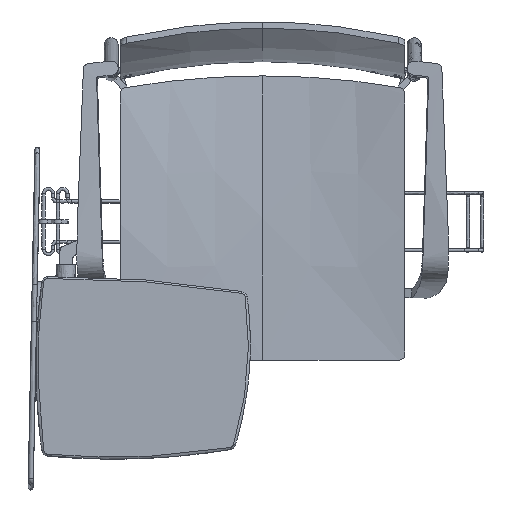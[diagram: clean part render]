
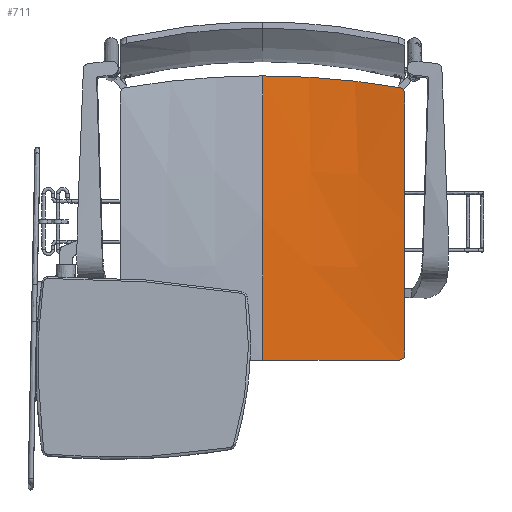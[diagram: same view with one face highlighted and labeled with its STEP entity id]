
A CAD part, top view. The second image highlights one B-rep face of the part: STEP entity #711.
In plain terms, the highlighted free-form (B-spline) face has degree [3, 3] with [6, 6] control points.
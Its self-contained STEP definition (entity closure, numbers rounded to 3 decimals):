
#21=B_SPLINE_SURFACE_WITH_KNOTS('',3,3,((#14225,#14226,#14227,#14228,#14229,
#14230),(#14231,#14232,#14233,#14234,#14235,#14236),(#14237,#14238,#14239,
#14240,#14241,#14242),(#14243,#14244,#14245,#14246,#14247,#14248),(#14249,
#14250,#14251,#14252,#14253,#14254),(#14255,#14256,#14257,#14258,#14259,
#14260)),.UNSPECIFIED.,.F.,.F.,.F.,(4,1,1,4),(4,1,1,4),(224.697,
299.522,374.346,449.395),(0.,145.508,
291.016,436.96),.UNSPECIFIED.);
#711=ADVANCED_FACE('',(#1101),#21,.T.);
#1101=FACE_OUTER_BOUND('',#1499,.T.);
#1499=EDGE_LOOP('',(#2699,#2700,#2701,#2702,#2703,#2704));
#2699=ORIENTED_EDGE('',*,*,#3790,.F.);
#2700=ORIENTED_EDGE('',*,*,#3780,.F.);
#2701=ORIENTED_EDGE('',*,*,#3788,.F.);
#2702=ORIENTED_EDGE('',*,*,#3778,.F.);
#2703=ORIENTED_EDGE('',*,*,#3760,.T.);
#2704=ORIENTED_EDGE('',*,*,#3781,.F.);
#3760=EDGE_CURVE('',#5214,#5215,#4671,.T.);
#3778=EDGE_CURVE('',#5214,#5229,#4404,.T.);
#3780=EDGE_CURVE('',#5227,#5226,#4406,.T.);
#3781=EDGE_CURVE('',#5230,#5215,#4684,.T.);
#3788=EDGE_CURVE('',#5229,#5227,#4691,.T.);
#3790=EDGE_CURVE('',#5226,#5230,#4693,.T.);
#4404=(
BOUNDED_CURVE()
B_SPLINE_CURVE(2,(#14429,#14430,#14431),.UNSPECIFIED.,.F.,.F.)
B_SPLINE_CURVE_WITH_KNOTS((3,3),(-226.906,-8.747),
 .UNSPECIFIED.)
CURVE()
GEOMETRIC_REPRESENTATION_ITEM()
RATIONAL_B_SPLINE_CURVE((1.,0.986,1.))
REPRESENTATION_ITEM('')
);
#4406=(
BOUNDED_CURVE()
B_SPLINE_CURVE(2,(#14435,#14436,#14437),.UNSPECIFIED.,.F.,.F.)
B_SPLINE_CURVE_WITH_KNOTS((3,3),(-417.08,-10.001),
 .UNSPECIFIED.)
CURVE()
GEOMETRIC_REPRESENTATION_ITEM()
RATIONAL_B_SPLINE_CURVE((1.,0.999,1.))
REPRESENTATION_ITEM('')
);
#4671=B_SPLINE_CURVE_WITH_KNOTS('',3,(#14312,#14313,#14314,#14315,#14316,
#14317),.UNSPECIFIED.,.F.,.F.,(4,1,1,4),(-436.523,-291.016,
-145.508,0.),.UNSPECIFIED.);
#4684=B_SPLINE_CURVE_WITH_KNOTS('',1,(#14438,#14439),.UNSPECIFIED.,.F.,
 .F.,(2,2),(-435.,-222.5),.UNSPECIFIED.);
#4691=B_SPLINE_CURVE_WITH_KNOTS('',3,(#14470,#14471,#14472,#14473,#14474,
#14475,#14476,#14477,#14478,#14479,#14480,#14481,#14482,#14483,#14484,#14485,
#14486,#14487,#14488,#14489),.UNSPECIFIED.,.F.,.F.,(4,1,1,1,1,1,1,1,1,1,
1,1,1,1,1,1,1,4),(-14.341,-13.544,-12.725,
-11.889,-11.037,-10.171,-9.297,-8.416,
-7.533,-6.651,-5.773,-4.903,
-4.045,-3.2,-2.371,-1.56,
-0.77,0.),.UNSPECIFIED.);
#4693=B_SPLINE_CURVE_WITH_KNOTS('',3,(#14510,#14511,#14512,#14513,#14514,
#14515,#14516,#14517,#14518,#14519,#14520,#14521,#14522,#14523,#14524,#14525,
#14526,#14527,#14528,#14529),.UNSPECIFIED.,.F.,.F.,(4,1,1,1,1,1,1,1,1,1,
1,1,1,1,1,1,1,4),(0.,0.846,1.719,2.616,
3.536,4.474,5.428,6.393,7.365,
8.339,9.311,10.276,11.229,12.168,
13.087,13.985,14.857,15.703),
 .UNSPECIFIED.);
#5214=VERTEX_POINT('',#14288);
#5215=VERTEX_POINT('',#14289);
#5226=VERTEX_POINT('',#14300);
#5227=VERTEX_POINT('',#14301);
#5229=VERTEX_POINT('',#14303);
#5230=VERTEX_POINT('',#14304);
#14225=CARTESIAN_POINT('',(0.,-257.5,438.92));
#14226=CARTESIAN_POINT('',(0.,-207.832,436.162));
#14227=CARTESIAN_POINT('',(0.,-108.594,428.907));
#14228=CARTESIAN_POINT('',(0.,39.995,412.796));
#14229=CARTESIAN_POINT('',(0.,138.607,398.59));
#14230=CARTESIAN_POINT('',(0.,187.851,390.612));
#14231=CARTESIAN_POINT('',(24.722,-257.5,438.92));
#14232=CARTESIAN_POINT('',(24.777,-207.832,436.162));
#14233=CARTESIAN_POINT('',(24.886,-108.594,428.907));
#14234=CARTESIAN_POINT('',(25.049,39.995,412.796));
#14235=CARTESIAN_POINT('',(25.158,138.607,398.59));
#14236=CARTESIAN_POINT('',(25.213,187.851,390.612));
#14237=CARTESIAN_POINT('',(74.167,-257.5,438.92));
#14238=CARTESIAN_POINT('',(74.33,-208.011,436.425));
#14239=CARTESIAN_POINT('',(74.656,-109.124,429.702));
#14240=CARTESIAN_POINT('',(75.146,38.966,414.415));
#14241=CARTESIAN_POINT('',(75.473,137.266,400.772));
#14242=CARTESIAN_POINT('',(75.637,186.359,393.079));
#14243=CARTESIAN_POINT('',(148.408,-257.5,438.92));
#14244=CARTESIAN_POINT('',(148.624,-208.818,437.601));
#14245=CARTESIAN_POINT('',(149.058,-111.501,433.268));
#14246=CARTESIAN_POINT('',(149.709,34.355,421.67));
#14247=CARTESIAN_POINT('',(150.143,131.254,410.553));
#14248=CARTESIAN_POINT('',(150.361,179.667,404.14));
#14249=CARTESIAN_POINT('',(197.926,-257.5,438.92));
#14250=CARTESIAN_POINT('',(198.035,-209.708,438.899));
#14251=CARTESIAN_POINT('',(198.254,-114.126,437.2));
#14252=CARTESIAN_POINT('',(198.582,29.265,429.675));
#14253=CARTESIAN_POINT('',(198.801,124.619,421.343));
#14254=CARTESIAN_POINT('',(198.911,172.284,416.343));
#14255=CARTESIAN_POINT('',(222.723,-257.5,438.92));
#14256=CARTESIAN_POINT('',(222.722,-210.238,439.672));
#14257=CARTESIAN_POINT('',(222.72,-115.691,439.543));
#14258=CARTESIAN_POINT('',(222.717,26.231,434.444));
#14259=CARTESIAN_POINT('',(222.715,120.665,427.774));
#14260=CARTESIAN_POINT('',(222.714,167.884,423.616));
#14288=CARTESIAN_POINT('',(0.,187.409,390.683));
#14289=CARTESIAN_POINT('',(0.,-257.5,438.92));
#14300=CARTESIAN_POINT('',(222.5,-247.5,439.066));
#14301=CARTESIAN_POINT('',(222.5,159.145,424.316));
#14303=CARTESIAN_POINT('',(214.241,168.992,421.123));
#14304=CARTESIAN_POINT('',(212.5,-257.5,438.92));
#14312=CARTESIAN_POINT('',(0.,187.409,390.683));
#14313=CARTESIAN_POINT('',(0.,138.312,398.633));
#14314=CARTESIAN_POINT('',(0.,39.846,412.812));
#14315=CARTESIAN_POINT('',(0.,-108.594,428.907));
#14316=CARTESIAN_POINT('',(0.,-207.832,436.162));
#14317=CARTESIAN_POINT('',(0.,-257.5,438.92));
#14429=CARTESIAN_POINT('',(0.,187.409,390.683));
#14430=CARTESIAN_POINT('',(110.075,187.409,390.683));
#14431=CARTESIAN_POINT('',(214.241,168.992,421.123));
#14435=CARTESIAN_POINT('',(222.5,159.145,424.316));
#14436=CARTESIAN_POINT('',(222.5,-43.812,441.779));
#14437=CARTESIAN_POINT('',(222.5,-247.5,439.066));
#14438=CARTESIAN_POINT('',(212.5,-257.5,438.92));
#14439=CARTESIAN_POINT('',(0.,-257.5,438.92));
#14470=CARTESIAN_POINT('',(214.241,168.992,421.123));
#14471=CARTESIAN_POINT('',(214.493,168.947,421.196));
#14472=CARTESIAN_POINT('',(214.999,168.838,421.346));
#14473=CARTESIAN_POINT('',(215.751,168.612,421.576));
#14474=CARTESIAN_POINT('',(216.499,168.322,421.811));
#14475=CARTESIAN_POINT('',(217.236,167.965,422.05));
#14476=CARTESIAN_POINT('',(217.951,167.542,422.289));
#14477=CARTESIAN_POINT('',(218.637,167.055,422.526));
#14478=CARTESIAN_POINT('',(219.286,166.506,422.759));
#14479=CARTESIAN_POINT('',(219.888,165.901,422.984));
#14480=CARTESIAN_POINT('',(220.438,165.246,423.198));
#14481=CARTESIAN_POINT('',(220.929,164.547,423.399));
#14482=CARTESIAN_POINT('',(221.357,163.813,423.585));
#14483=CARTESIAN_POINT('',(221.718,163.052,423.755));
#14484=CARTESIAN_POINT('',(222.01,162.274,423.906));
#14485=CARTESIAN_POINT('',(222.233,161.486,424.038));
#14486=CARTESIAN_POINT('',(222.389,160.698,424.15));
#14487=CARTESIAN_POINT('',(222.48,159.918,424.243));
#14488=CARTESIAN_POINT('',(222.5,159.4,424.294));
#14489=CARTESIAN_POINT('',(222.5,159.145,424.316));
#14510=CARTESIAN_POINT('',(222.5,-247.5,439.066));
#14511=CARTESIAN_POINT('',(222.5,-247.782,439.062));
#14512=CARTESIAN_POINT('',(222.476,-248.355,439.054));
#14513=CARTESIAN_POINT('',(222.364,-249.221,439.042));
#14514=CARTESIAN_POINT('',(222.171,-250.097,439.029));
#14515=CARTESIAN_POINT('',(221.892,-250.974,439.015));
#14516=CARTESIAN_POINT('',(221.526,-251.838,439.002));
#14517=CARTESIAN_POINT('',(221.073,-252.677,438.989));
#14518=CARTESIAN_POINT('',(220.535,-253.479,438.977));
#14519=CARTESIAN_POINT('',(219.918,-254.229,438.965));
#14520=CARTESIAN_POINT('',(219.229,-254.918,438.955));
#14521=CARTESIAN_POINT('',(218.479,-255.535,438.946));
#14522=CARTESIAN_POINT('',(217.678,-256.073,438.938));
#14523=CARTESIAN_POINT('',(216.838,-256.526,438.932));
#14524=CARTESIAN_POINT('',(215.974,-256.892,438.927));
#14525=CARTESIAN_POINT('',(215.098,-257.171,438.924));
#14526=CARTESIAN_POINT('',(214.221,-257.364,438.922));
#14527=CARTESIAN_POINT('',(213.355,-257.476,438.921));
#14528=CARTESIAN_POINT('',(212.782,-257.5,438.92));
#14529=CARTESIAN_POINT('',(212.5,-257.5,438.92));
